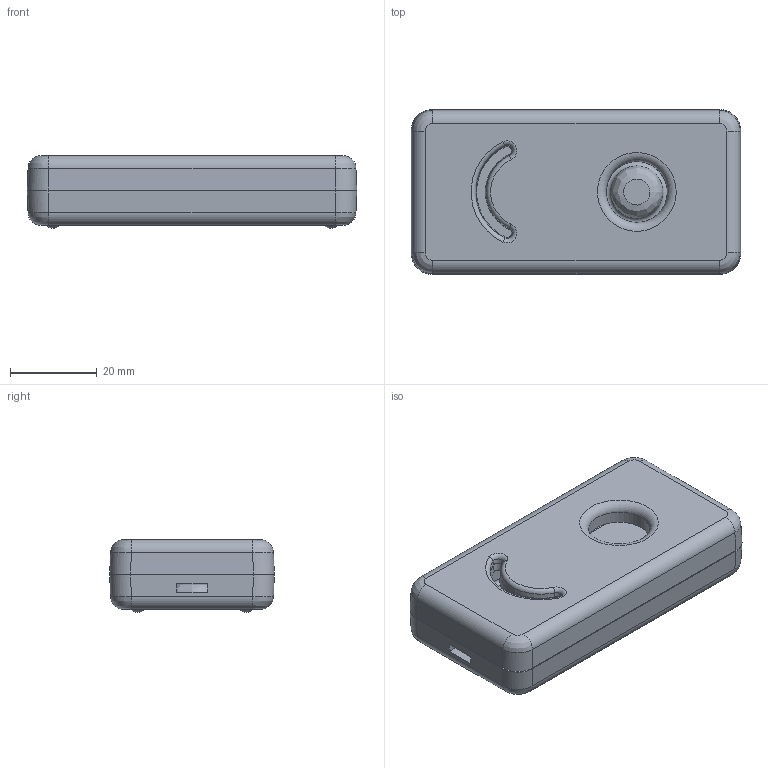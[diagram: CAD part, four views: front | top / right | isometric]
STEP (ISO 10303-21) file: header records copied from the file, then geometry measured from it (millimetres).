
FILE_DESCRIPTION(/* description */ (''),/* implementation_level */ '2;1');
FILE_NAME(/* name */ 'CP2.stp',/* time_stamp */ '2019-05-01T20:16:27+08:00',/* author */ (''),/* organization */ (''),/* preprocessor_version */ 'ST-DEVELOPER v16',/* originating_system */ 'SIEMENS PLM Software NX 10.0',/* authorisation */ '');
FILE_SCHEMA (('AUTOMOTIVE_DESIGN { 1 0 10303 214 3 1 1 1 }'));
Length unit declared in the file: millimetre
Products named in the file (3): CP02_ZP_id6_x_t; CP02_ZP_id11_x_t; CP02_ZP_x_t
Assembly tree (2 placements, depth 2):
  CP02_ZP_x_t
    CP02_ZP_id11_x_t
    CP02_ZP_id6_x_t
Bounding box: 75.84 x 37.88 x 16.72 mm (x, y, z)
Volume: 15832.8 mm3; surface area: 17464.1 mm2
Topology: 2 solids, 2 shells, 149 faces, 361 edges, 226 vertices
Faces by surface type: plane 56, cylinder 40, bspline 25, cone 16, torus 8, sphere 4
Full cylindrical faces by diameter (mm): 2.5 x1, 5 x1, 8 x1, 14.1 x1
Entity records: 6853 total; most frequent: CARTESIAN_POINT 3525, ORIENTED_EDGE 714, DIRECTION 594, EDGE_CURVE 357, VERTEX_POINT 226, AXIS2_PLACEMENT_3D 200, LINE 194, VECTOR 194
